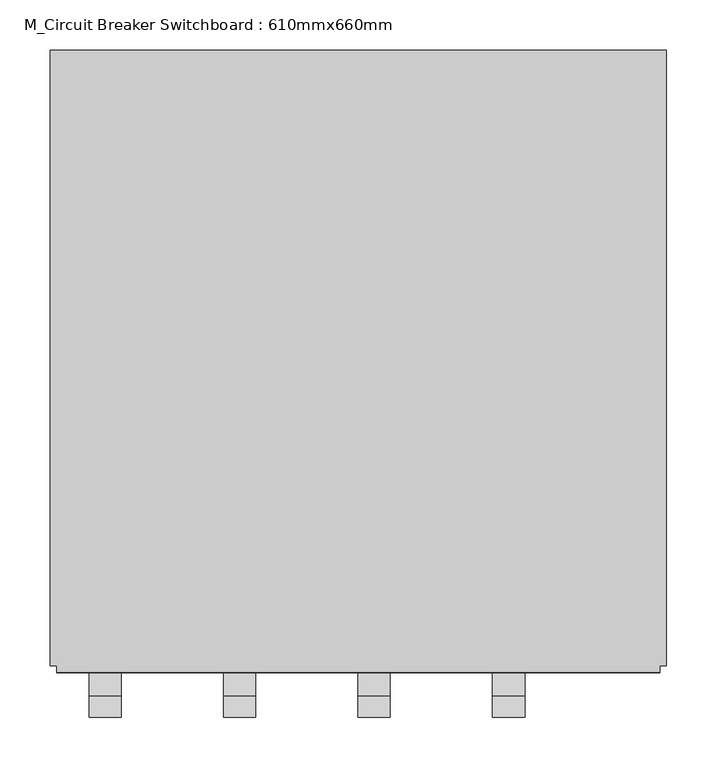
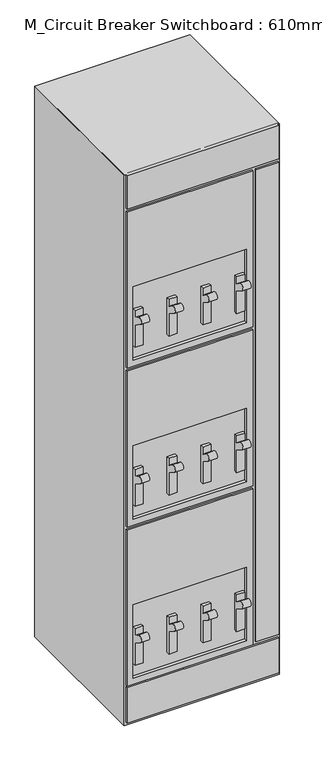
"""IFC4 building model written with IfcOpenShell, lengths in millimetres: proxy geometry, M_Circuit Breaker Switchboard : 610mmx660mm."""

from ifc_helpers import new_model, si_unit, point, frame, frame_2d, origin, origin_with_axes, place, context, project, spatial, polyline, circle_curve, trimmed, segment, composite_curve, outline, extrude, faceted_brep, source, transform, mapped, element, save


def m_circuit_breaker_switchboard_610mmx660mm_e90c0931(model_context):
    return source(origin(), model_context, "Body", "SolidModel", [
        extrude(outline(composite_curve([segment(polyline([(-639.5115662, 1701.9284675), (-615.7854499, 1685.925), (-615.7854499, 1714.5), (-603.0854499, 1714.5), (-603.0854499, 1562.1), (-615.7854499, 1562.1), (-615.7854499, 1654.175), (-654.2306098, 1680.1065878)]), True, "CONTINUOUS"), segment(trimmed(circle_curve(frame_2d((-646.871088, 1691.0175277)), 13.1609715), [point((-654.2306098, 1680.1065878))], [point((-639.5115662, 1701.9284675))], False, "CARTESIAN"), True, "CONTINUOUS")], self_intersect=False)), frame((-0.1666667, 0.0, 0.0), z_axis=(1.0, 0.0, 0.0), x_axis=(0.0, 1.0, 0.0)), (0.0, 0.0, 1.0), 31.75),
        extrude(outline(composite_curve([segment(polyline([(-639.5115662, 1041.5284675), (-615.7854499, 1025.525), (-615.7854499, 1054.1), (-603.0854499, 1054.1), (-603.0854499, 901.7), (-615.7854499, 901.7), (-615.7854499, 993.775), (-654.2306098, 1019.7065878)]), True, "CONTINUOUS"), segment(trimmed(circle_curve(frame_2d((-646.871088, 1030.6175277)), 13.1609715), [point((-654.2306098, 1019.7065878))], [point((-639.5115662, 1041.5284675))], False, "CARTESIAN"), True, "CONTINUOUS")], self_intersect=False)), frame((-0.1666667, 0.0, 0.0), z_axis=(1.0, 0.0, 0.0), x_axis=(0.0, 1.0, 0.0)), (0.0, 0.0, 1.0), 31.75),
        extrude(outline(composite_curve([segment(polyline([(-639.5115662, 381.1284675), (-615.7854499, 365.125), (-615.7854499, 393.7), (-603.0854499, 393.7), (-603.0854499, 241.3), (-615.7854499, 241.3), (-615.7854499, 333.375), (-654.2306098, 359.3065878)]), True, "CONTINUOUS"), segment(trimmed(circle_curve(frame_2d((-646.871088, 370.2175277)), 13.1609715), [point((-654.2306098, 359.3065878))], [point((-639.5115662, 381.1284675))], False, "CARTESIAN"), True, "CONTINUOUS")], self_intersect=False)), frame((-0.1666667, 0.0, 0.0), z_axis=(1.0, 0.0, 0.0), x_axis=(0.0, 1.0, 0.0)), (0.0, 0.0, 1.0), 31.75),
        extrude(outline(composite_curve([segment(polyline([(-639.5115662, 1701.9284675), (-615.7854499, 1685.925), (-615.7854499, 1714.5), (-603.0854499, 1714.5), (-603.0854499, 1562.1), (-615.7854499, 1562.1), (-615.7854499, 1654.175), (-654.2306098, 1680.1065878)]), True, "CONTINUOUS"), segment(trimmed(circle_curve(frame_2d((-646.871088, 1691.0175277)), 13.1609715), [point((-654.2306098, 1680.1065878))], [point((-639.5115662, 1701.9284675))], False, "CARTESIAN"), True, "CONTINUOUS")], self_intersect=False)), frame((-133.4333333, 0.0, 0.0), z_axis=(1.0, 0.0, 0.0), x_axis=(0.0, 1.0, 0.0)), (0.0, 0.0, 1.0), 31.75),
        extrude(outline(composite_curve([segment(polyline([(-639.5115662, 1041.5284675), (-615.7854499, 1025.525), (-615.7854499, 1054.1), (-603.0854499, 1054.1), (-603.0854499, 901.7), (-615.7854499, 901.7), (-615.7854499, 993.775), (-654.2306098, 1019.7065878)]), True, "CONTINUOUS"), segment(trimmed(circle_curve(frame_2d((-646.871088, 1030.6175277)), 13.1609715), [point((-654.2306098, 1019.7065878))], [point((-639.5115662, 1041.5284675))], False, "CARTESIAN"), True, "CONTINUOUS")], self_intersect=False)), frame((-133.4333333, 0.0, 0.0), z_axis=(1.0, 0.0, 0.0), x_axis=(0.0, 1.0, 0.0)), (0.0, 0.0, 1.0), 31.75),
        extrude(outline(composite_curve([segment(polyline([(-639.5115662, 381.1284675), (-615.7854499, 365.125), (-615.7854499, 393.7), (-603.0854499, 393.7), (-603.0854499, 241.3), (-615.7854499, 241.3), (-615.7854499, 333.375), (-654.2306098, 359.3065878)]), True, "CONTINUOUS"), segment(trimmed(circle_curve(frame_2d((-646.871088, 370.2175277)), 13.1609715), [point((-654.2306098, 359.3065878))], [point((-639.5115662, 381.1284675))], False, "CARTESIAN"), True, "CONTINUOUS")], self_intersect=False)), frame((-133.4333333, 0.0, 0.0), z_axis=(1.0, 0.0, 0.0), x_axis=(0.0, 1.0, 0.0)), (0.0, 0.0, 1.0), 31.75),
        extrude(outline(composite_curve([segment(polyline([(-639.5115662, 1701.9284675), (-615.7854499, 1685.925), (-615.7854499, 1714.5), (-603.0854499, 1714.5), (-603.0854499, 1562.1), (-615.7854499, 1562.1), (-615.7854499, 1654.175), (-654.2306098, 1680.1065878)]), True, "CONTINUOUS"), segment(trimmed(circle_curve(frame_2d((-646.871088, 1691.0175277)), 13.1609715), [point((-654.2306098, 1680.1065878))], [point((-639.5115662, 1701.9284675))], False, "CARTESIAN"), True, "CONTINUOUS")], self_intersect=False)), frame((133.1, 0.0, 0.0), z_axis=(1.0, 0.0, 0.0), x_axis=(0.0, 1.0, 0.0)), (0.0, 0.0, 1.0), 31.75),
        extrude(outline(composite_curve([segment(polyline([(-639.5115662, 1041.5284675), (-615.7854499, 1025.525), (-615.7854499, 1054.1), (-603.0854499, 1054.1), (-603.0854499, 901.7), (-615.7854499, 901.7), (-615.7854499, 993.775), (-654.2306098, 1019.7065878)]), True, "CONTINUOUS"), segment(trimmed(circle_curve(frame_2d((-646.871088, 1030.6175277)), 13.1609715), [point((-654.2306098, 1019.7065878))], [point((-639.5115662, 1041.5284675))], False, "CARTESIAN"), True, "CONTINUOUS")], self_intersect=False)), frame((133.1, 0.0, 0.0), z_axis=(1.0, 0.0, 0.0), x_axis=(0.0, 1.0, 0.0)), (0.0, 0.0, 1.0), 31.75),
        extrude(outline(composite_curve([segment(polyline([(-639.5115662, 381.1284675), (-615.7854499, 365.125), (-615.7854499, 393.7), (-603.0854499, 393.7), (-603.0854499, 241.3), (-615.7854499, 241.3), (-615.7854499, 333.375), (-654.2306098, 359.3065878)]), True, "CONTINUOUS"), segment(trimmed(circle_curve(frame_2d((-646.871088, 370.2175277)), 13.1609715), [point((-654.2306098, 359.3065878))], [point((-639.5115662, 381.1284675))], False, "CARTESIAN"), True, "CONTINUOUS")], self_intersect=False)), frame((133.1, 0.0, 0.0), z_axis=(1.0, 0.0, 0.0), x_axis=(0.0, 1.0, 0.0)), (0.0, 0.0, 1.0), 31.75),
        extrude(outline(composite_curve([segment(polyline([(-639.5115662, 1701.9284675), (-615.7854499, 1685.925), (-615.7854499, 1714.5), (-603.0854499, 1714.5), (-603.0854499, 1562.1), (-615.7854499, 1562.1), (-615.7854499, 1654.175), (-654.2306098, 1680.1065878)]), True, "CONTINUOUS"), segment(trimmed(circle_curve(frame_2d((-646.871088, 1691.0175277)), 13.1609715), [point((-654.2306098, 1680.1065878))], [point((-639.5115662, 1701.9284675))], False, "CARTESIAN"), True, "CONTINUOUS")], self_intersect=False)), frame((-266.7, 0.0, 0.0), z_axis=(1.0, 0.0, 0.0), x_axis=(0.0, 1.0, 0.0)), (0.0, 0.0, 1.0), 31.75),
        extrude(outline(composite_curve([segment(polyline([(-639.5115662, 1041.5284675), (-615.7854499, 1025.525), (-615.7854499, 1054.1), (-603.0854499, 1054.1), (-603.0854499, 901.7), (-615.7854499, 901.7), (-615.7854499, 993.775), (-654.2306098, 1019.7065878)]), True, "CONTINUOUS"), segment(trimmed(circle_curve(frame_2d((-646.871088, 1030.6175277)), 13.1609715), [point((-654.2306098, 1019.7065878))], [point((-639.5115662, 1041.5284675))], False, "CARTESIAN"), True, "CONTINUOUS")], self_intersect=False)), frame((-266.7, 0.0, 0.0), z_axis=(1.0, 0.0, 0.0), x_axis=(0.0, 1.0, 0.0)), (0.0, 0.0, 1.0), 31.75),
        extrude(outline(composite_curve([segment(polyline([(-639.5115662, 381.1284675), (-615.7854499, 365.125), (-615.7854499, 393.7), (-603.0854499, 393.7), (-603.0854499, 241.3), (-615.7854499, 241.3), (-615.7854499, 333.375), (-654.2306098, 359.3065878)]), True, "CONTINUOUS"), segment(trimmed(circle_curve(frame_2d((-646.871088, 370.2175277)), 13.1609715), [point((-654.2306098, 359.3065878))], [point((-639.5115662, 381.1284675))], False, "CARTESIAN"), True, "CONTINUOUS")], self_intersect=False)), frame((-266.7, 0.0, 0.0), z_axis=(1.0, 0.0, 0.0), x_axis=(0.0, 1.0, 0.0)), (0.0, 0.0, 1.0), 31.75),
        faceted_brep([(-305.0, -609.4354499, 2286.0), (-305.0, -609.4354499, 0.0), (305.0, -609.4354499, 0.0), (305.0, -609.4354499, 2286.0), (298.65, -609.4354499, 2286.0), (298.65, -609.4354499, 2146.3), (-298.65, -609.4354499, 2146.3), (-298.65, -609.4354499, 2286.0), (-298.65, -609.4354499, 812.8), (197.05, -609.4354499, 812.8), (197.05, -609.4354499, 165.1), (-298.65, -609.4354499, 165.1), (-298.65, -609.4354499, 1473.2), (197.05, -609.4354499, 1473.2), (197.05, -609.4354499, 825.5), (-298.65, -609.4354499, 825.5), (-298.65, -609.4354499, 2133.6), (197.05, -609.4354499, 2133.6), (197.05, -609.4354499, 1485.9), (-298.65, -609.4354499, 1485.9), (209.75, -609.4354499, 2133.6), (298.65, -609.4354499, 2133.6), (298.65, -609.4354499, 171.45), (209.75, -609.4354499, 171.45), (-298.65, -609.4354499, 158.75), (298.65, -609.4354499, 158.75), (298.65, -609.4354499, 12.7), (-298.65, -609.4354499, 12.7), (305.0, 0.0, 2286.0), (305.0, 0.0, 0.0), (-305.0, 0.0, 0.0), (-305.0, 0.0, 2286.0), (-298.65, -615.7854499, 2286.0), (298.65, -615.7854499, 2286.0), (171.65, -603.0854499, 1816.1), (-273.25, -603.0854499, 1816.1), (-273.25, -603.0854499, 1511.3), (171.65, -603.0854499, 1511.3), (171.65, -615.7854499, 1816.1), (-273.25, -615.7854499, 1816.1), (-273.25, -615.7854499, 1511.3), (171.65, -615.7854499, 1511.3), (171.65, -603.0854499, 1155.7), (-273.25, -603.0854499, 1155.7), (-273.25, -603.0854499, 850.9), (171.65, -603.0854499, 850.9), (171.65, -615.7854499, 1155.7), (-273.25, -615.7854499, 1155.7), (-273.25, -615.7854499, 850.9), (171.65, -615.7854499, 850.9), (197.05, -615.7854499, 812.8), (-298.65, -615.7854499, 812.8), (-298.65, -615.7854499, 165.1), (197.05, -615.7854499, 165.1), (-273.25, -615.7854499, 495.3), (171.65, -615.7854499, 495.3), (171.65, -615.7854499, 190.5), (-273.25, -615.7854499, 190.5), (171.65, -603.0854499, 495.3), (-273.25, -603.0854499, 495.3), (-273.25, -603.0854499, 190.5), (171.65, -603.0854499, 190.5), (197.05, -615.7854499, 1473.2), (-298.65, -615.7854499, 1473.2), (-298.65, -615.7854499, 825.5), (197.05, -615.7854499, 825.5), (197.05, -615.7854499, 2133.6), (-298.65, -615.7854499, 2133.6), (-298.65, -615.7854499, 1485.9), (197.05, -615.7854499, 1485.9), (-298.65, -615.7854499, 2146.3), (298.65, -615.7854499, 2146.3), (298.65, -615.7854499, 2133.6), (209.75, -615.7854499, 2133.6), (209.75, -615.7854499, 171.45), (298.65, -615.7854499, 171.45), (298.65, -615.7854499, 158.75), (-298.65, -615.7854499, 158.75), (-298.65, -615.7854499, 12.7), (298.65, -615.7854499, 12.7)], [[[0, 1, 2, 3, 4, 5, 6, 7], [8, 9, 10, 11], [12, 13, 14, 15], [16, 17, 18, 19], [20, 21, 22, 23], [24, 25, 26, 27]], [[28, 29, 30, 31]], [[28, 31, 0, 7, 32, 33, 4, 3]], [[1, 0, 31, 30]], [[2, 1, 30, 29]], [[3, 2, 29, 28]], [[34, 35, 36, 37]], [[35, 34, 38, 39]], [[36, 35, 39, 40]], [[37, 36, 40, 41]], [[34, 37, 41, 38]], [[42, 43, 44, 45]], [[43, 42, 46, 47]], [[44, 43, 47, 48]], [[45, 44, 48, 49]], [[42, 45, 49, 46]], [[50, 51, 52, 53], [54, 55, 56, 57]], [[51, 50, 9, 8]], [[52, 51, 8, 11]], [[53, 52, 11, 10]], [[50, 53, 10, 9]], [[58, 59, 60, 61]], [[59, 58, 55, 54]], [[60, 59, 54, 57]], [[61, 60, 57, 56]], [[58, 61, 56, 55]], [[62, 63, 64, 65], [47, 46, 49, 48]], [[63, 62, 13, 12]], [[64, 63, 12, 15]], [[65, 64, 15, 14]], [[62, 65, 14, 13]], [[66, 67, 68, 69], [39, 38, 41, 40]], [[67, 66, 17, 16]], [[68, 67, 16, 19]], [[69, 68, 19, 18]], [[66, 69, 18, 17]], [[33, 32, 70, 71]], [[70, 32, 7, 6]], [[71, 70, 6, 5]], [[33, 71, 5, 4]], [[72, 73, 74, 75]], [[73, 72, 21, 20]], [[74, 73, 20, 23]], [[75, 74, 23, 22]], [[72, 75, 22, 21]], [[76, 77, 78, 79]], [[77, 76, 25, 24]], [[78, 77, 24, 27]], [[79, 78, 27, 26]], [[76, 79, 26, 25]]]),
        extrude(outline(polyline([(305.0, 0.0), (305.0, -603.0854499), (-305.0, -603.0854499), (-305.0, 0.0), (305.0, 0.0)])), origin_with_axes(), (0.0, 0.0, 1.0), 2286.0),
    ])


if __name__ == "__main__":
    model = new_model("IFC4")
    model_context = context("Model", 3, world=origin())
    ifc_project = project(units=[si_unit("LENGTHUNIT", "METRE", prefix="MILLI")], contexts=[model_context])
    site = spatial("IfcSite", under=ifc_project)
    building = spatial("IfcBuilding", under=site)
    placement = place(None, origin())
    m_circuit_breaker_switchboard_610mmx660mm_shape = m_circuit_breaker_switchboard_610mmx660mm_e90c0931(model_context)
    element("IfcBuildingElementProxy", 1, Name="M_Circuit Breaker Switchboard : 610mmx660mm", ObjectType="M_Circuit Breaker Switchboard : 610mmx660mm", at=placement, inside=building, context=model_context, shape_type="MappedRepresentation", body=[
        mapped(m_circuit_breaker_switchboard_610mmx660mm_shape, transform((0.0, 0.0, 0.0), x_axis=(1.0, 0.0, 0.0), y_axis=(0.0, 1.0, 0.0), z_axis=(0.0, 0.0, 1.0))),
    ])
    save(model, "model.ifc")
